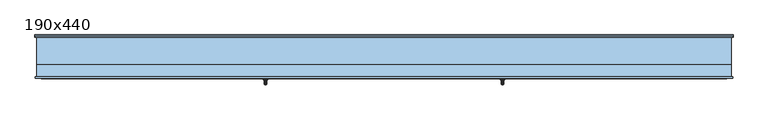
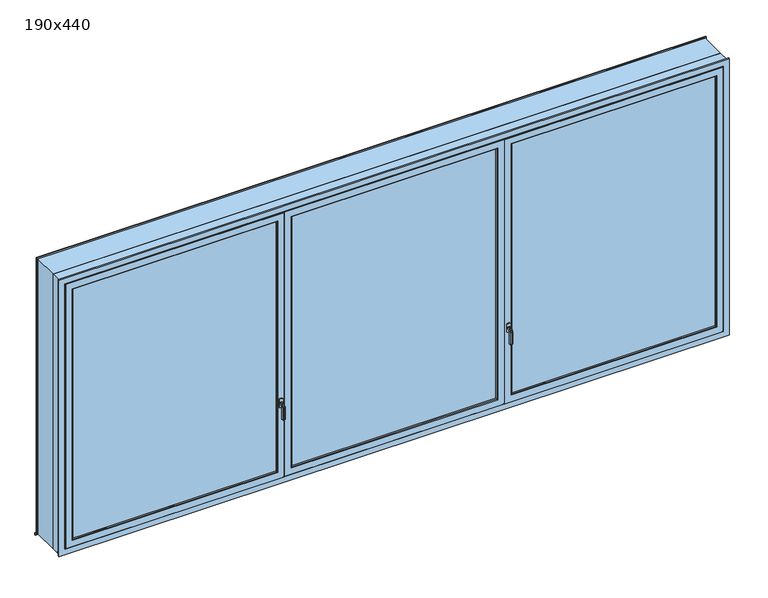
"""IFC4 building model written with IfcOpenShell, lengths in millimetres: window geometry, 3 Vantaux : 190x440."""

from ifc_helpers import new_model, si_unit, frame, origin, place, context, project, spatial, polyline, outline, extrude, faceted_brep, source, transform, mapped, element, save


def window_190x440_032361bc(model_context):
    return source(origin(), model_context, "Body", "SolidModel", [
        faceted_brep([(-745.2072654, -143.0471229, 1358.0), (-742.2251756, -143.0471229, 1355.0179101), (-742.2251756, -143.0471229, 1344.9820899), (-745.2072654, -143.0471229, 1342.0), (-755.2430857, -143.0471229, 1342.0), (-758.2251756, -143.0471229, 1344.9820899), (-758.2251756, -143.0471229, 1355.0179101), (-755.2430857, -143.0471229, 1358.0), (-745.2072654, -162.665925, 1358.0), (-742.2251756, -160.9442146, 1355.0179101), (-742.2251756, -173.065033, 1334.0240369), (-742.2251756, -173.065033, 1251.9658946), (-742.2251756, -163.0292127, 1251.9658946), (-742.2251756, -163.0292127, 1331.334947), (-742.2251756, -155.1500311, 1344.9820899), (-745.2072654, -153.4283207, 1342.0), (-755.2430857, -153.4283207, 1342.0), (-758.2251756, -155.1500311, 1344.9820899), (-758.2251756, -163.0292127, 1331.334947), (-758.2251756, -163.0292127, 1251.9658946), (-758.2251756, -173.065033, 1251.9658946), (-758.2251756, -173.065033, 1334.0240369), (-758.2251756, -160.9442146, 1355.0179101), (-755.2430857, -162.665925, 1358.0), (-745.2072654, -176.0471229, 1334.8230855), (-745.2072654, -160.0471229, 1330.5358984), (-755.2430857, -160.0471229, 1330.5358984), (-755.2430857, -176.0471229, 1334.8230855), (-754.4287855, -174.0812283, 1250.0), (-756.259281, -172.2507328, 1250.0), (-756.259281, -163.8435129, 1250.0), (-754.4287855, -162.0130174, 1250.0), (-746.0215656, -162.0130174, 1250.0), (-744.1910701, -163.8435129, 1250.0), (-744.1910701, -172.2507328, 1250.0), (-746.0215656, -174.0812283, 1250.0), (-745.2072654, -176.0471229, 1251.9658946), (-745.2072654, -160.0471229, 1251.9658946), (-755.2430857, -160.0471229, 1251.9658946), (-755.2430857, -176.0471229, 1251.9658946)], [[[0, 1, 2, 3, 4, 5, 6, 7]], [[1, 0, 8, 9]], [[2, 1, 9, 10, 11, 12, 13, 14]], [[3, 2, 14, 15]], [[4, 3, 15, 16]], [[5, 4, 16, 17]], [[6, 5, 17, 18, 19, 20, 21, 22]], [[7, 6, 22, 23]], [[0, 7, 23, 8]], [[9, 8, 24, 10]], [[14, 13, 25, 15]], [[16, 15, 25, 26]], [[17, 16, 26, 18]], [[22, 21, 27, 23]], [[8, 23, 27, 24]], [[28, 29, 30, 31, 32, 33, 34, 35]], [[10, 24, 36, 11]], [[25, 13, 12, 37]], [[26, 25, 37, 38]], [[18, 26, 38, 19]], [[27, 21, 20, 39]], [[24, 27, 39, 36]], [[20, 29, 28, 39]], [[29, 20, 19, 30]], [[30, 19, 38, 31]], [[31, 38, 37, 32]], [[32, 37, 12, 33]], [[33, 12, 11, 34]], [[34, 11, 36, 35]], [[39, 28, 35, 36]]]),
        extrude(outline(polyline([(1320.0, -742.2251756), (1325.0, -737.2251756), (1375.0, -737.2251756), (1380.0, -742.2251756), (1380.0, -758.2251756), (1375.0, -763.2251756), (1325.0, -763.2251756), (1320.0, -758.2251756), (1320.0, -742.2251756)])), frame((0.0, -143.0471229, 0.0), z_axis=(0.0, 1.0, 0.0), x_axis=(0.0, 0.0, 1.0)), (0.0, 0.0, 1.0), 5.0),
        faceted_brep([(755.2430857, -143.0471229, 1358.0), (758.2251756, -143.0471229, 1355.0179101), (758.2251756, -143.0471229, 1344.9820899), (755.2430857, -143.0471229, 1342.0), (745.2072654, -143.0471229, 1342.0), (742.2251756, -143.0471229, 1344.9820899), (742.2251756, -143.0471229, 1355.0179101), (745.2072654, -143.0471229, 1358.0), (755.2430857, -162.665925, 1358.0), (758.2251756, -160.9442146, 1355.0179101), (758.2251756, -173.065033, 1334.0240369), (758.2251756, -173.065033, 1251.9658946), (758.2251756, -163.0292127, 1251.9658946), (758.2251756, -163.0292127, 1331.334947), (758.2251756, -155.1500311, 1344.9820899), (755.2430857, -153.4283207, 1342.0), (745.2072654, -153.4283207, 1342.0), (742.2251756, -155.1500311, 1344.9820899), (742.2251756, -163.0292127, 1331.334947), (742.2251756, -163.0292127, 1251.9658946), (742.2251756, -173.065033, 1251.9658946), (742.2251756, -173.065033, 1334.0240369), (742.2251756, -160.9442146, 1355.0179101), (745.2072654, -162.665925, 1358.0), (755.2430857, -176.0471229, 1334.8230855), (755.2430857, -160.0471229, 1330.5358984), (745.2072654, -160.0471229, 1330.5358984), (745.2072654, -176.0471229, 1334.8230855), (746.0215656, -174.0812283, 1250.0), (744.1910701, -172.2507328, 1250.0), (744.1910701, -163.8435129, 1250.0), (746.0215656, -162.0130174, 1250.0), (754.4287855, -162.0130174, 1250.0), (756.259281, -163.8435129, 1250.0), (756.259281, -172.2507328, 1250.0), (754.4287855, -174.0812283, 1250.0), (755.2430857, -176.0471229, 1251.9658946), (755.2430857, -160.0471229, 1251.9658946), (745.2072654, -160.0471229, 1251.9658946), (745.2072654, -176.0471229, 1251.9658946)], [[[0, 1, 2, 3, 4, 5, 6, 7]], [[1, 0, 8, 9]], [[2, 1, 9, 10, 11, 12, 13, 14]], [[3, 2, 14, 15]], [[4, 3, 15, 16]], [[5, 4, 16, 17]], [[6, 5, 17, 18, 19, 20, 21, 22]], [[7, 6, 22, 23]], [[0, 7, 23, 8]], [[9, 8, 24, 10]], [[14, 13, 25, 15]], [[16, 15, 25, 26]], [[17, 16, 26, 18]], [[22, 21, 27, 23]], [[8, 23, 27, 24]], [[28, 29, 30, 31, 32, 33, 34, 35]], [[10, 24, 36, 11]], [[25, 13, 12, 37]], [[26, 25, 37, 38]], [[18, 26, 38, 19]], [[27, 21, 20, 39]], [[24, 27, 39, 36]], [[20, 29, 28, 39]], [[29, 20, 19, 30]], [[30, 19, 38, 31]], [[31, 38, 37, 32]], [[32, 37, 12, 33]], [[33, 12, 11, 34]], [[34, 11, 36, 35]], [[39, 28, 35, 36]]]),
        extrude(outline(polyline([(1320.0, 758.2251756), (1325.0, 763.2251756), (1375.0, 763.2251756), (1380.0, 758.2251756), (1380.0, 742.2251756), (1375.0, 737.2251756), (1325.0, 737.2251756), (1320.0, 742.2251756), (1320.0, 758.2251756)])), frame((0.0, -143.0471229, 0.0), z_axis=(0.0, 1.0, 0.0), x_axis=(0.0, 0.0, 1.0)), (0.0, 0.0, 1.0), 5.0),
        faceted_brep([(723.7251756, -95.0, 2668.5), (725.2251756, -96.5, 2670.0), (725.2251756, -96.5, 823.5), (723.7251756, -95.0, 825.0), (725.2251756, -136.5471229, 2670.0), (725.2251756, -136.5471229, 823.5), (-725.2251756, -96.5, 823.5), (-723.7251756, -95.0, 825.0), (-723.7251756, -95.0, 2668.5), (679.2840501, -95.0, 2624.0588745), (-679.2840501, -95.0, 2624.0588745), (-679.2840501, -95.0, 869.4411255), (679.2840501, -95.0, 869.4411255), (675.2251756, -99.0588745, 2620.0), (675.2251756, -99.0588745, 873.5), (-675.2251756, -99.0588745, 873.5), (675.2251756, -108.5235614, 2620.0), (675.2251756, -108.5235614, 873.5), (-675.2251756, -108.5235614, 873.5), (681.2251756, -108.5235614, 2626.0), (-681.2251756, -108.5235614, 2626.0), (-681.2251756, -108.5235614, 867.5), (681.2251756, -108.5235614, 867.5), (-675.2251756, -108.5235614, 2620.0), (681.2251756, -124.5235614, 2626.0), (681.2251756, -124.5235614, 867.5), (-681.2251756, -124.5235614, 867.5), (-681.2251756, -124.5235614, 2626.0), (675.2251756, -124.5235614, 2620.0), (-675.2251756, -124.5235614, 2620.0), (-675.2251756, -124.5235614, 873.5), (675.2251756, -124.5235614, 873.5), (675.2251756, -133.9882484, 2620.0), (675.2251756, -133.9882484, 873.5), (-675.2251756, -133.9882484, 873.5), (679.2840501, -138.0471229, 2624.0588745), (679.2840501, -138.0471229, 869.4411255), (-679.2840501, -138.0471229, 869.4411255), (723.7251756, -138.0471229, 2668.5), (-723.7251756, -138.0471229, 2668.5), (-723.7251756, -138.0471229, 825.0), (723.7251756, -138.0471229, 825.0), (-679.2840501, -138.0471229, 2624.0588745), (-725.2251756, -136.5471229, 823.5), (-725.2251756, -96.5, 2670.0), (-675.2251756, -99.0588745, 2620.0), (-675.2251756, -133.9882484, 2620.0), (-725.2251756, -136.5471229, 2670.0)], [[[0, 1, 2, 3]], [[1, 4, 5, 2]], [[3, 2, 6, 7]], [[3, 7, 8, 0], [9, 10, 11, 12]], [[13, 9, 12, 14]], [[14, 12, 11, 15]], [[16, 13, 14, 17]], [[17, 14, 15, 18]], [[19, 20, 21, 22], [17, 18, 23, 16]], [[24, 19, 22, 25]], [[25, 22, 21, 26]], [[25, 26, 27, 24], [28, 29, 30, 31]], [[32, 28, 31, 33]], [[33, 31, 30, 34]], [[35, 32, 33, 36]], [[36, 33, 34, 37]], [[38, 39, 40, 41], [36, 37, 42, 35]], [[4, 38, 41, 5]], [[5, 41, 40, 43]], [[2, 5, 43, 6]], [[7, 6, 44, 8]], [[15, 11, 10, 45]], [[18, 15, 45, 23]], [[26, 21, 20, 27]], [[34, 30, 29, 46]], [[37, 34, 46, 42]], [[43, 40, 39, 47]], [[6, 43, 47, 44]], [[8, 44, 1, 0]], [[45, 10, 9, 13]], [[23, 45, 13, 16]], [[27, 20, 19, 24]], [[46, 29, 28, 32]], [[42, 46, 32, 35]], [[47, 39, 38, 4]], [[44, 47, 4, 1]]]),
        faceted_brep([(2120.0, -99.0588745, 2620.0), (2124.0588745, -95.0, 2624.0588745), (2124.0588745, -95.0, 869.4411255), (2120.0, -99.0588745, 873.5), (2168.5, -95.0, 2668.5), (2168.5, -95.0, 825.0), (726.7251756, -95.0, 825.0), (726.7251756, -95.0, 2668.5), (771.1663011, -95.0, 2624.0588745), (771.1663011, -95.0, 869.4411255), (775.2251756, -99.0588745, 873.5), (2120.0, -108.5235614, 2620.0), (2120.0, -108.5235614, 873.5), (775.2251756, -108.5235614, 873.5), (769.2251756, -108.5235614, 2626.0), (769.2251756, -108.5235614, 867.5), (2126.0, -108.5235614, 867.5), (2126.0, -108.5235614, 2626.0), (775.2251756, -108.5235614, 2620.0), (2126.0, -124.5235614, 2626.0), (2126.0, -124.5235614, 867.5), (769.2251756, -124.5235614, 867.5), (769.2251756, -124.5235614, 2626.0), (775.2251756, -124.5235614, 2620.0), (775.2251756, -124.5235614, 873.5), (2120.0, -124.5235614, 873.5), (2120.0, -124.5235614, 2620.0), (2120.0, -133.9882484, 2620.0), (2120.0, -133.9882484, 873.5), (775.2251756, -133.9882484, 873.5), (2124.0588745, -138.0471229, 2624.0588745), (2124.0588745, -138.0471229, 869.4411255), (771.1663011, -138.0471229, 869.4411255), (726.7251756, -138.0471229, 2668.5), (726.7251756, -138.0471229, 825.0), (2168.5, -138.0471229, 825.0), (2168.5, -138.0471229, 2668.5), (771.1663011, -138.0471229, 2624.0588745), (2170.0, -96.5, 2670.0), (2170.0, -136.5471229, 2670.0), (2170.0, -136.5471229, 823.5), (2170.0, -96.5, 823.5), (725.2251756, -136.5471229, 823.5), (725.2251756, -96.5, 823.5), (775.2251756, -99.0588745, 2620.0), (775.2251756, -133.9882484, 2620.0), (725.2251756, -136.5471229, 2670.0), (725.2251756, -96.5, 2670.0)], [[[0, 1, 2, 3]], [[4, 5, 6, 7], [8, 9, 2, 1]], [[3, 2, 9, 10]], [[11, 0, 3, 12]], [[12, 3, 10, 13]], [[14, 15, 16, 17], [11, 12, 13, 18]], [[19, 17, 16, 20]], [[20, 16, 15, 21]], [[19, 20, 21, 22], [23, 24, 25, 26]], [[27, 26, 25, 28]], [[28, 25, 24, 29]], [[30, 27, 28, 31]], [[31, 28, 29, 32]], [[33, 34, 35, 36], [30, 31, 32, 37]], [[38, 39, 40, 41]], [[39, 36, 35, 40]], [[41, 40, 42, 43]], [[4, 38, 41, 5]], [[10, 9, 8, 44]], [[13, 10, 44, 18]], [[21, 15, 14, 22]], [[29, 24, 23, 45]], [[32, 29, 45, 37]], [[40, 35, 34, 42]], [[43, 42, 46, 47]], [[5, 41, 43, 6]], [[6, 43, 47, 7]], [[42, 34, 33, 46]], [[44, 8, 1, 0]], [[18, 44, 0, 11]], [[22, 14, 17, 19]], [[45, 23, 26, 27]], [[37, 45, 27, 30]], [[47, 46, 39, 38]], [[46, 33, 36, 39]], [[7, 47, 38, 4]]]),
        faceted_brep([(-2175.6755267, -45.0, 813.8687943), (-2175.6755267, -45.0, 795.0), (-2175.6755267, -47.0, 795.0), (-2175.6755267, -47.0, 800.0), (-2175.6755267, -50.0, 800.0), (-2175.6755267, -50.0, 814.2950679), (2175.6755267, -45.0, 813.8687943), (2175.6755267, -45.0, 795.0), (2175.6755267, -47.0, 795.0), (2175.6755267, -47.0, 800.0), (2175.6755267, -50.0, 800.0), (2175.0, -50.6755267, 800.0), (2175.0, -85.0, 800.0), (2160.0, -85.0, 800.0), (2160.0, -95.0, 800.0), (2200.0, -95.0, 800.0), (2200.0, -125.0, 800.0), (-2200.0, -125.0, 800.0), (-2200.0, -95.0, 800.0), (-2160.0, -95.0, 800.0), (-2160.0, -85.0, 800.0), (-2175.0, -85.0, 800.0), (-2175.0, -50.6755267, 800.0), (-2175.6755267, -50.0, 783.5), (-2200.0, -50.0, 783.5), (-2200.0, -50.0, 2700.0), (2200.0, -50.0, 2700.0), (2200.0, -50.0, 783.5), (2175.6755267, -50.0, 783.5), (2175.6755267, -50.0, 814.2950679), (2175.6755267, -50.0, 2675.6755267), (-2175.6755267, -50.0, 2675.6755267), (-2175.0, -50.6755267, 814.3526597), (-2175.0, -85.0, 817.278983), (2175.0, -85.0, 817.278983), (2175.0, -50.6755267, 814.3526597), (-2210.0, -125.0, 783.5), (-2210.0, -125.0, 2710.0), (2210.0, -125.0, 2710.0), (2210.0, -125.0, 783.5), (2200.0, -125.0, 2700.0), (-2200.0, -125.0, 2700.0), (-2210.0, -133.0, 783.5), (-2210.0, -133.0, 2710.0), (2210.0, -133.0, 2710.0), (2210.0, -133.0, 783.5), (2200.0, -95.0, 783.5), (2160.0, -95.0, 783.5), (2160.0, -85.0, 783.5), (2175.0, -85.0, 783.5), (2175.0, -50.6755267, 783.5), (-2175.0, -50.6755267, 783.5), (-2175.0, -85.0, 783.5), (-2160.0, -85.0, 783.5), (-2160.0, -95.0, 783.5), (-2200.0, -95.0, 783.5), (-2170.0, -133.0, 2670.0), (2170.0, -133.0, 2670.0), (2170.0, -133.0, 823.5), (-2170.0, -133.0, 823.5), (2170.0, -95.0, 2670.0), (2170.0, -95.0, 823.5), (-2170.0, -95.0, 823.5), (-2170.0, -95.0, 2670.0), (-2160.0, -95.0, 2660.0), (2160.0, -95.0, 2660.0), (2160.0, -95.0, 833.5), (-2160.0, -95.0, 833.5), (2160.0, -85.0, 2660.0), (2160.0, -85.0, 833.5), (-2160.0, -85.0, 833.5), (-2160.0, -85.0, 2660.0), (-2175.0, -85.0, 2675.0), (2175.0, -85.0, 2675.0), (-2175.0, -50.6755267, 2675.0), (2175.0, -50.6755267, 2675.0)], [[[0, 1, 2, 3, 4, 5]], [[1, 0, 6, 7]], [[2, 1, 7, 8]], [[3, 2, 8, 9]], [[3, 9, 10, 11, 12, 13, 14, 15, 16, 17, 18, 19, 20, 21, 22, 4]], [[23, 24, 25, 26, 27, 28, 10, 29, 30, 31, 5, 4]], [[6, 0, 5, 32, 33, 34, 35, 29]], [[9, 8, 7, 6, 29, 10]], [[36, 37, 38, 39], [16, 40, 41, 17]], [[36, 42, 43, 37]], [[39, 38, 44, 45]], [[28, 27, 46, 47, 48, 49, 50]], [[42, 36, 39, 45]], [[23, 51, 52, 53, 54, 55, 24]], [[27, 26, 40, 16, 15, 46]], [[41, 25, 24, 55, 18, 17]], [[45, 44, 43, 42], [56, 57, 58, 59]], [[57, 60, 61, 58]], [[59, 58, 61, 62]], [[63, 56, 59, 62]], [[46, 15, 14, 47]], [[54, 19, 18, 55]], [[60, 63, 62, 61], [64, 65, 66, 67]], [[48, 47, 14, 13]], [[65, 68, 69, 66]], [[67, 66, 69, 70]], [[54, 53, 20, 19]], [[71, 64, 67, 70]], [[53, 52, 21, 20]], [[49, 48, 13, 12]], [[72, 73, 34, 33], [68, 71, 70, 69]], [[52, 51, 22, 21]], [[74, 72, 33, 32]], [[50, 49, 12, 11]], [[73, 75, 35, 34]], [[51, 23, 4, 22]], [[31, 74, 32, 5]], [[28, 50, 11, 10]], [[75, 30, 29, 35]], [[38, 37, 43, 44]], [[25, 41, 40, 26]], [[63, 60, 57, 56]], [[71, 68, 65, 64]], [[72, 74, 75, 73]], [[31, 30, 75, 74]]]),
        extrude(outline(polyline([(-2126.0, -108.5), (-769.2251756, -108.5), (-769.2251756, -124.5), (-2126.0, -124.5), (-2126.0, -108.5)])), frame((0.0, 0.0, 867.5), z_axis=(0.0, 0.0, 1.0), x_axis=(1.0, 0.0, 0.0)), (0.0, 0.0, 1.0), 1758.5),
        extrude(outline(polyline([(769.2251756, -108.5), (2126.0, -108.5), (2126.0, -124.5), (769.2251756, -124.5), (769.2251756, -108.5)])), frame((0.0, 0.0, 867.5), z_axis=(0.0, 0.0, 1.0), x_axis=(1.0, 0.0, 0.0)), (0.0, 0.0, 1.0), 1758.5),
        extrude(outline(polyline([(-681.2251756, -108.5), (681.2251756, -108.5), (681.2251756, -124.5), (-681.2251756, -124.5), (-681.2251756, -108.5)])), frame((0.0, 0.0, 867.5), z_axis=(0.0, 0.0, 1.0), x_axis=(1.0, 0.0, 0.0)), (0.0, 0.0, 1.0), 1758.5),
        faceted_brep([(-725.2251756, -96.5, 2670.0), (-725.2251756, -136.5471229, 2670.0), (-725.2251756, -136.5471229, 823.5), (-725.2251756, -96.5, 823.5), (-726.7251756, -138.0471229, 2668.5), (-726.7251756, -138.0471229, 825.0), (-2170.0, -136.5471229, 823.5), (-2170.0, -96.5, 823.5), (-726.7251756, -95.0, 2668.5), (-726.7251756, -95.0, 825.0), (-771.1663011, -138.0471229, 2624.0588745), (-775.2251756, -133.9882484, 2620.0), (-775.2251756, -133.9882484, 873.5), (-771.1663011, -138.0471229, 869.4411255), (-775.2251756, -124.5235614, 2620.0), (-775.2251756, -124.5235614, 873.5), (-2120.0, -133.9882484, 873.5), (-2124.0588745, -138.0471229, 869.4411255), (-2168.5, -138.0471229, 2668.5), (-2168.5, -138.0471229, 825.0), (-2124.0588745, -138.0471229, 2624.0588745), (-769.2251756, -124.5235614, 867.5), (-2126.0, -124.5235614, 867.5), (-2126.0, -124.5235614, 2626.0), (-769.2251756, -124.5235614, 2626.0), (-2120.0, -124.5235614, 2620.0), (-2120.0, -124.5235614, 873.5), (-769.2251756, -108.5235614, 2626.0), (-769.2251756, -108.5235614, 867.5), (-2126.0, -108.5235614, 2626.0), (-2126.0, -108.5235614, 867.5), (-775.2251756, -108.5235614, 873.5), (-2120.0, -108.5235614, 873.5), (-2120.0, -108.5235614, 2620.0), (-775.2251756, -108.5235614, 2620.0), (-775.2251756, -99.0588745, 2620.0), (-775.2251756, -99.0588745, 873.5), (-771.1663011, -95.0, 2624.0588745), (-771.1663011, -95.0, 869.4411255), (-2120.0, -99.0588745, 873.5), (-2168.5, -95.0, 825.0), (-2168.5, -95.0, 2668.5), (-2124.0588745, -95.0, 2624.0588745), (-2124.0588745, -95.0, 869.4411255), (-2170.0, -136.5471229, 2670.0), (-2170.0, -96.5, 2670.0), (-2120.0, -133.9882484, 2620.0), (-2120.0, -99.0588745, 2620.0)], [[[0, 1, 2, 3]], [[1, 4, 5, 2]], [[3, 2, 6, 7]], [[8, 0, 3, 9]], [[10, 11, 12, 13]], [[11, 14, 15, 12]], [[13, 12, 16, 17]], [[4, 18, 19, 5], [13, 17, 20, 10]], [[21, 22, 23, 24], [14, 25, 26, 15]], [[12, 15, 26, 16]], [[24, 27, 28, 21]], [[27, 29, 30, 28], [31, 32, 33, 34]], [[21, 28, 30, 22]], [[34, 35, 36, 31]], [[35, 37, 38, 36]], [[31, 36, 39, 32]], [[9, 40, 41, 8], [37, 42, 43, 38]], [[36, 38, 43, 39]], [[2, 5, 19, 6]], [[7, 6, 44, 45]], [[9, 3, 7, 40]], [[17, 16, 46, 20]], [[16, 26, 25, 46]], [[22, 30, 29, 23]], [[32, 39, 47, 33]], [[39, 43, 42, 47]], [[6, 19, 18, 44]], [[40, 7, 45, 41]], [[45, 44, 1, 0]], [[20, 46, 11, 10]], [[46, 25, 14, 11]], [[23, 29, 27, 24]], [[33, 47, 35, 34]], [[47, 42, 37, 35]], [[41, 45, 0, 8]], [[44, 18, 4, 1]]]),
        faceted_brep([(2210.6755267, 125.0, 784.2945446), (2210.6755267, 125.0, 782.7924528), (2210.6755267, 138.5, 782.0792453), (2210.6755267, 138.5, 772.5), (2210.6755267, 133.5, 772.5), (2210.6755267, 133.5, 771.0), (2210.6755267, 140.0, 771.0), (2210.6755267, 140.0, 783.5020918), (2208.0, 125.0, 784.2945446), (2208.0, 125.0, 2708.0), (-2208.0, 125.0, 2708.0), (-2208.0, 125.0, 784.2945446), (-2210.6755267, 125.0, 784.2945446), (-2210.6755267, 125.0, 782.7924528), (-2175.6755267, 125.0, 782.7924528), (-2175.6755267, 125.0, 783.5), (-2200.0, 125.0, 783.5), (-2200.0, 125.0, 2700.0), (2200.0, 125.0, 2700.0), (2200.0, 125.0, 783.5), (2175.6755267, 125.0, 783.5), (2175.6755267, 125.0, 782.7924528), (2175.6755267, 111.6071429, 783.5), (2175.6755267, -50.0, 792.0377358), (2175.6755267, -60.0, 792.5660377), (-2175.6755267, -60.0, 792.5660377), (-2175.6755267, -50.0, 792.0377358), (-2175.6755267, 111.6071429, 783.5), (-2210.6755267, 138.5, 782.0792453), (-2210.6755267, 138.5, 772.5), (-2210.6755267, 133.5, 772.5), (-2210.6755267, 133.5, 771.0), (-2210.6755267, 140.0, 771.0), (-2210.6755267, 140.0, 783.5020918), (-2208.0, 131.1421356, 783.9700545), (-2206.1421356, 133.0, 783.8719031), (-2178.8578644, 133.0, 783.8719031), (-2175.6755267, 129.8176624, 784.0400266), (-2175.6755267, 125.0, 784.2945446), (-2175.6755267, -50.0, 793.5398277), (-2175.6755267, -58.5, 793.9888843), (2175.6755267, -58.5, 793.9888843), (2175.6755267, -50.0, 793.5398277), (2175.6755267, 125.0, 784.2945446), (2175.6755267, 129.8176624, 784.0400266), (2178.8578644, 133.0, 783.8719031), (2206.1421356, 133.0, 783.8719031), (2208.0, 131.1421356, 783.9700545), (2208.0, 131.1421356, 2708.0), (-2208.0, 131.1421356, 2708.0), (-2175.6755267, -60.0, 797.4781943), (-2175.6755267, -58.5, 797.4781943), (-2175.6755267, -50.0, 783.5), (-2200.0, -50.0, 783.5), (-2200.0, -50.0, 2700.0), (2200.0, -50.0, 2700.0), (2200.0, -50.0, 783.5), (2175.6755267, -50.0, 783.5), (2175.6755267, -58.5, 797.4781943), (2175.6755267, -60.0, 797.4781943), (2175.6755267, -50.0, 2675.6755267), (2175.6755267, 129.8176624, 2675.6755267), (-2175.6755267, 129.8176624, 2675.6755267), (-2175.6755267, -50.0, 2675.6755267), (-2206.1421356, 133.0, 2706.1421356), (2206.1421356, 133.0, 2706.1421356), (2178.8578644, 133.0, 2678.8578644), (-2178.8578644, 133.0, 2678.8578644)], [[[0, 1, 2, 3, 4, 5, 6, 7]], [[1, 0, 8, 9, 10, 11, 12, 13, 14, 15, 16, 17, 18, 19, 20, 21]], [[2, 1, 21, 22, 23, 24, 25, 26, 27, 14, 13, 28]], [[3, 2, 28, 29]], [[4, 3, 29, 30]], [[5, 4, 30, 31]], [[6, 5, 31, 32]], [[7, 6, 32, 33]], [[0, 7, 33, 12, 11, 34, 35, 36, 37, 38, 39, 40, 41, 42, 43, 44, 45, 46, 47, 8]], [[48, 9, 8, 47]], [[10, 49, 34, 11]], [[33, 32, 31, 30, 29, 28, 13, 12]], [[15, 14, 27]], [[25, 50, 51, 40, 39, 26]], [[52, 53, 16, 15, 27]], [[17, 16, 53, 54]], [[55, 56, 19, 18]], [[56, 57, 22, 20, 19]], [[21, 20, 22]], [[41, 58, 59, 24, 23, 42]], [[57, 23, 22]], [[60, 61, 44, 43, 42]], [[50, 25, 24, 59]], [[52, 27, 26]], [[62, 63, 39, 38, 37]], [[49, 64, 35, 34]], [[64, 65, 46, 45, 66, 67, 36, 35]], [[67, 62, 37, 36]], [[40, 51, 58, 41]], [[61, 66, 45, 44]], [[65, 48, 47, 46]], [[51, 50, 59, 58]], [[53, 52, 26, 39, 63, 60, 42, 23, 57, 56, 55, 54]], [[10, 9, 48, 49]], [[54, 55, 18, 17]], [[60, 63, 62, 61]], [[64, 49, 48, 65]], [[67, 66, 61, 62]]]),
        extrude(outline(polyline([(-60.0, 800.0), (-60.0, 792.5660377), (85.0, 784.9056604), (85.0, 765.0), (-95.0, 765.0), (-95.0, 800.0), (-60.0, 800.0)])), frame((-2175.6755267, 0.0, 0.0), z_axis=(1.0, 0.0, 0.0), x_axis=(0.0, 1.0, 0.0)), (0.0, 0.0, 1.0), 4351.3510535),
    ])


if __name__ == "__main__":
    model = new_model("IFC4")
    model_context = context("Model", 3, world=origin())
    ifc_project = project(units=[si_unit("LENGTHUNIT", "METRE", prefix="MILLI")], contexts=[model_context])
    site = spatial("IfcSite", under=ifc_project)
    building = spatial("IfcBuilding", under=site)
    placement = place(None, origin())
    window_190x440_shape = window_190x440_032361bc(model_context)
    element("IfcWindow", 1, ObjectType="3 Vantaux : 190x440", at=placement, inside=building, context=model_context, shape_type="MappedRepresentation", body=[
        mapped(window_190x440_shape, transform((0.0, 0.0, 0.0), x_axis=(1.0, 0.0, 0.0), y_axis=(0.0, 1.0, 0.0), z_axis=(0.0, 0.0, 1.0))),
    ])
    save(model, "model.ifc")
